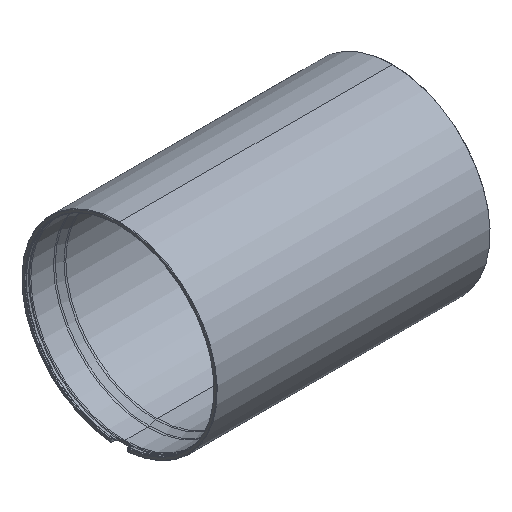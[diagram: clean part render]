
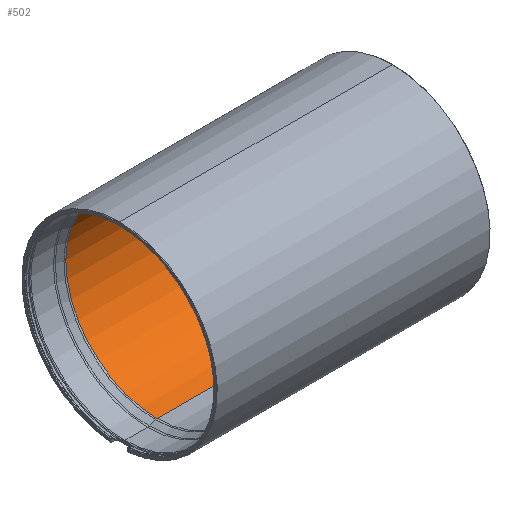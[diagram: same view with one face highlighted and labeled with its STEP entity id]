
A CAD part, isometric view. The second image highlights one B-rep face of the part: STEP entity #502.
In plain terms, the highlighted cylindrical face has radius 100 mm (diameter 200 mm), a partial arc.
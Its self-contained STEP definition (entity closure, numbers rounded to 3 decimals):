
#78 = CARTESIAN_POINT ( 'NONE',  ( -41.509, 0., 0. ) ) ;
#116 = CIRCLE ( 'NONE', #892, 100. ) ;
#125 = DIRECTION ( 'NONE',  ( 0., 0., 1. ) ) ;
#293 = VERTEX_POINT ( 'NONE', #4135 ) ;
#300 = ORIENTED_EDGE ( 'NONE', *, *, #1531, .T. ) ;
#485 = FACE_OUTER_BOUND ( 'NONE', #4396, .T. ) ;
#502 = ADVANCED_FACE ( 'NONE', ( #485 ), #2023, .F. ) ;
#605 = EDGE_CURVE ( 'NONE', #2886, #2082, #1123, .T. ) ;
#706 = DIRECTION ( 'NONE',  ( -1., 0., 0. ) ) ;
#892 = AXIS2_PLACEMENT_3D ( 'NONE', #4194, #2327, #2300 ) ;
#1123 = LINE ( 'NONE', #4046, #2061 ) ;
#1125 = CIRCLE ( 'NONE', #3562, 100. ) ;
#1166 = CARTESIAN_POINT ( 'NONE',  ( -41.509, 0., -100. ) ) ;
#1464 = CARTESIAN_POINT ( 'NONE',  ( -76.2, 0., 100. ) ) ;
#1531 = EDGE_CURVE ( 'NONE', #3766, #2082, #116, .T. ) ;
#1724 = ORIENTED_EDGE ( 'NONE', *, *, #4336, .T. ) ;
#1992 = CARTESIAN_POINT ( 'NONE',  ( -76.2, 0., 0. ) ) ;
#2023 = CYLINDRICAL_SURFACE ( 'NONE', #3076, 100. ) ;
#2061 = VECTOR ( 'NONE', #706, 1000. ) ;
#2082 = VERTEX_POINT ( 'NONE', #2563 ) ;
#2174 = EDGE_CURVE ( 'NONE', #2886, #293, #1125, .T. ) ;
#2300 = DIRECTION ( 'NONE',  ( 0., 0., -1. ) ) ;
#2327 = DIRECTION ( 'NONE',  ( -1., 0., 0. ) ) ;
#2481 = VECTOR ( 'NONE', #4464, 1000. ) ;
#2563 = CARTESIAN_POINT ( 'NONE',  ( -258.491, 0., -100. ) ) ;
#2886 = VERTEX_POINT ( 'NONE', #1166 ) ;
#3076 = AXIS2_PLACEMENT_3D ( 'NONE', #1992, #3439, #125 ) ;
#3153 = ORIENTED_EDGE ( 'NONE', *, *, #2174, .T. ) ;
#3439 = DIRECTION ( 'NONE',  ( -1., 0., 0. ) ) ;
#3562 = AXIS2_PLACEMENT_3D ( 'NONE', #78, #4581, #3808 ) ;
#3712 = ORIENTED_EDGE ( 'NONE', *, *, #605, .F. ) ;
#3766 = VERTEX_POINT ( 'NONE', #4341 ) ;
#3808 = DIRECTION ( 'NONE',  ( 0., 0., -1. ) ) ;
#4046 = CARTESIAN_POINT ( 'NONE',  ( -76.2, 0., -100. ) ) ;
#4135 = CARTESIAN_POINT ( 'NONE',  ( -41.509, 0., 100. ) ) ;
#4194 = CARTESIAN_POINT ( 'NONE',  ( -258.491, 0., 0. ) ) ;
#4336 = EDGE_CURVE ( 'NONE', #293, #3766, #4839, .T. ) ;
#4341 = CARTESIAN_POINT ( 'NONE',  ( -258.491, 0., 100. ) ) ;
#4396 = EDGE_LOOP ( 'NONE', ( #3712, #3153, #1724, #300 ) ) ;
#4464 = DIRECTION ( 'NONE',  ( -1., 0., 0. ) ) ;
#4581 = DIRECTION ( 'NONE',  ( 1., 0., 0. ) ) ;
#4839 = LINE ( 'NONE', #1464, #2481 ) ;
